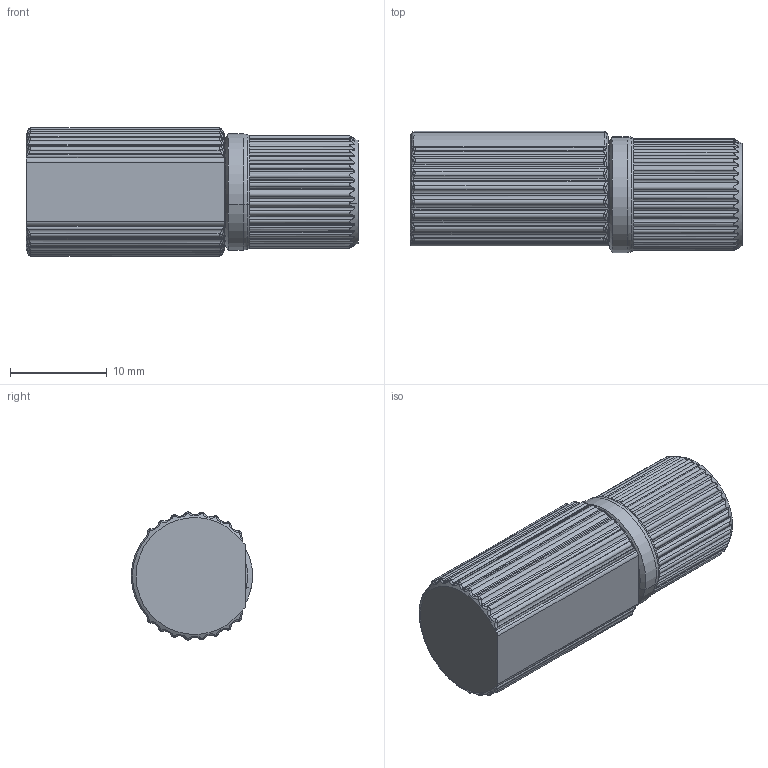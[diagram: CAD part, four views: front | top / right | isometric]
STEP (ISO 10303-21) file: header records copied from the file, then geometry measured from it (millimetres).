
FILE_DESCRIPTION (( 'STEP AP203' ), '1' );
FILE_NAME ('TI-330-02 REV A.STEP', '2024-02-06T20:02:50', ( '' ), ( '' ), 'SwSTEP 2.0', 'SolidWorks 2021', '' );
FILE_SCHEMA (( 'CONFIG_CONTROL_DESIGN' ));
Length unit declared in the file: millimetre
Products named in the file (4): 108621; TI-330-02 REV A; JOIN^TI-330 REV A; 109865
Assembly tree (3 placements, depth 3):
  TI-330-02 REV A
    108621
      109865
    JOIN^TI-330 REV A
Bounding box: 34.3 x 12.52 x 13.24 mm (x, y, z)
Volume: 3962.9 mm3; surface area: 2260.6 mm2
Topology: 2 solids, 2 shells, 554 faces, 1452 edges, 907 vertices
Faces by surface type: cylinder 314, bspline 130, plane 86, cone 22, torus 2
Entity records: 20988 total; most frequent: CARTESIAN_POINT 8197, ORIENTED_EDGE 2904, DIRECTION 2247, EDGE_CURVE 1452, AXIS2_PLACEMENT_3D 916, VERTEX_POINT 907, EDGE_LOOP 559, FACE_OUTER_BOUND 554
